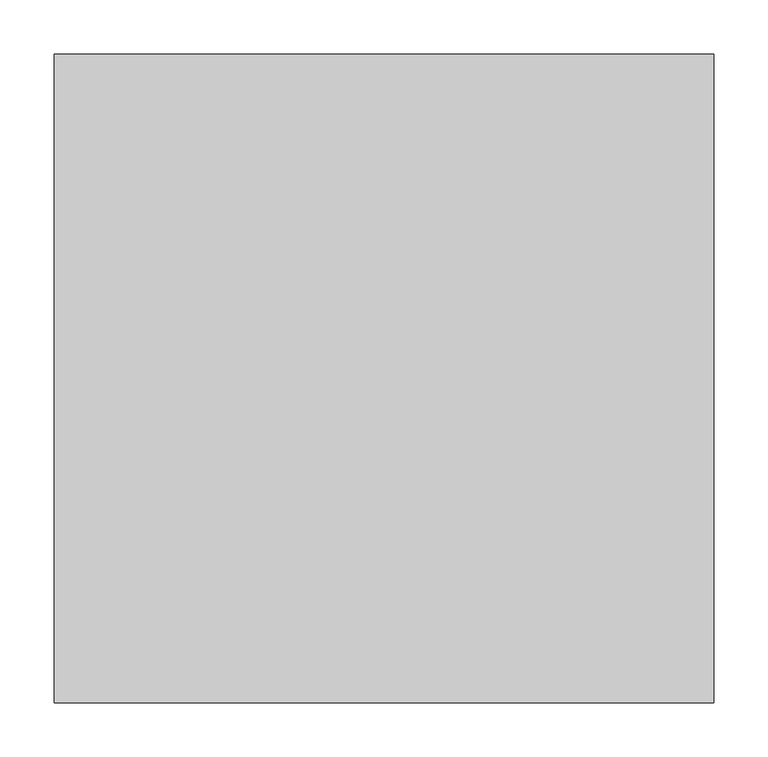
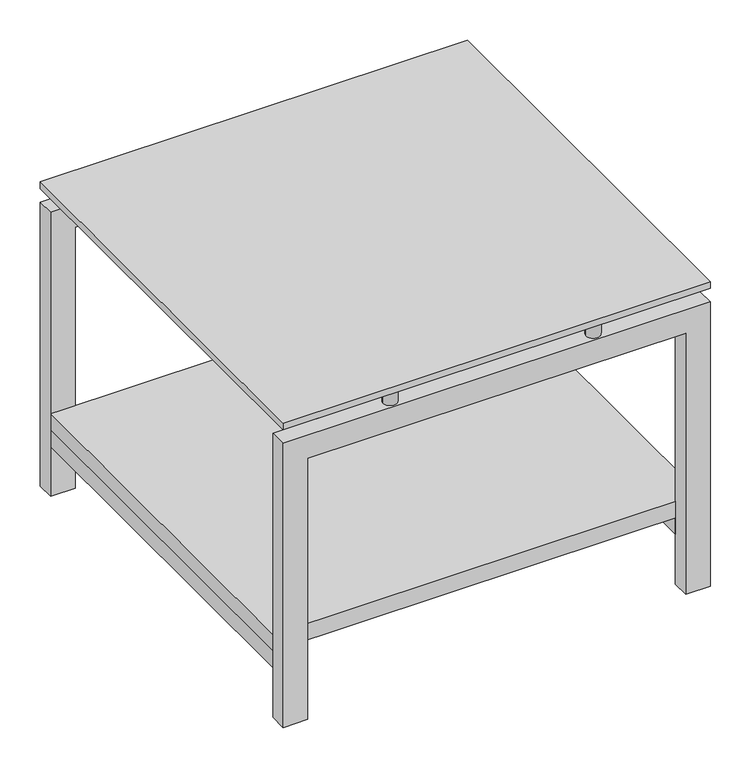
"""IFC4 building model written with IfcOpenShell, lengths in millimetres: furniture geometry, Mobiliário_MobiliáriodeEscritório_LinhaPERFECTA_Mesa de Centro - ZMCV 0606_Marelli : Mobiliário_MobiliáriodeEscritório_LinhaPERFECTA_Mesa de Centro - ZMCV 0606_Marelli."""

from ifc_helpers import new_model, si_unit, point, frame, frame_2d, origin, place, context, project, spatial, polyline, circle_curve, trimmed, segment, composite_curve, outline, extrude, source, transform, mapped, element, save


def furniture_a7132519(model_context):
    return source(origin(), model_context, "Body", "SweptSolid", [
        extrude(outline(polyline([(610.0, 0.0), (0.0, 0.0), (0.0, 600.0), (610.0, 600.0), (610.0, 0.0)])), frame((0.0, 0.0, 449.3107024), z_axis=(0.0, 0.0, 1.0), x_axis=(1.0, 0.0, 0.0)), (0.0, 0.0, 1.0), 9.9892976),
        extrude(outline(polyline([(0.0, 35.0000007), (393.6999879, 35.0000007), (393.6999879, 575.0000044), (0.0, 575.0000044), (0.0, 610.0), (428.7178023, 610.0), (428.7178023, 0.0), (0.0, 0.0), (0.0, 35.0000007)])), frame((0.0, 0.0, 0.0), z_axis=(0.0, 1.0, 0.0), x_axis=(0.0, 0.0, 1.0)), (0.0, 0.0, 1.0), 25.0),
        extrude(outline(polyline([(0.0, 35.0000007), (393.6999879, 35.0000007), (393.6999879, 575.0000044), (0.0, 575.0000044), (0.0, 610.0), (428.7178023, 610.0), (428.7178023, 0.0), (0.0, 0.0), (0.0, 35.0000007)])), frame((0.0, 575.0, 0.0), z_axis=(0.0, 1.0, 0.0), x_axis=(0.0, 0.0, 1.0)), (0.0, 0.0, 1.0), 25.0),
        extrude(outline(polyline([(610.0, 575.0), (610.0, 25.0), (575.0000044, 25.0), (575.0000044, 575.0), (610.0, 575.0)])), frame((0.0, 0.0, 75.0), z_axis=(0.0, 0.0, 1.0), x_axis=(1.0, 0.0, 0.0)), (0.0, 0.0, 1.0), 25.0),
        extrude(outline(polyline([(34.9999956, 575.0), (34.9999956, 25.0), (0.0, 25.0), (0.0, 575.0), (34.9999956, 575.0)])), frame((0.0, 0.0, 75.0), z_axis=(0.0, 0.0, 1.0), x_axis=(1.0, 0.0, 0.0)), (0.0, 0.0, 1.0), 25.0),
        extrude(outline(polyline([(610.0, 575.0), (610.0, 25.0), (0.0, 25.0), (0.0, 575.0), (610.0, 575.0)])), frame((0.0, 0.0, 100.0), z_axis=(0.0, 0.0, 1.0), x_axis=(1.0, 0.0, 0.0)), (0.0, 0.0, 1.0), 25.0),
        extrude(outline(composite_curve([segment(trimmed(circle_curve(frame_2d((450.0001999, 587.5002)), 10.0), [point((440.0001999, 587.5002))], [point((460.0001999, 587.5002))], False, "CARTESIAN"), True, "CONTINUOUS"), segment(trimmed(circle_curve(frame_2d((450.0001999, 587.5002)), 10.0), [point((460.0001999, 587.5002))], [point((440.0001999, 587.5002))], False, "CARTESIAN"), True, "CONTINUOUS")], self_intersect=False)), frame((0.0, 0.0, 428.7178023), z_axis=(0.0, 0.0, 1.0), x_axis=(1.0, 0.0, 0.0)), (0.0, 0.0, 1.0), 20.5929),
        extrude(outline(composite_curve([segment(trimmed(circle_curve(frame_2d((160.0000004, 587.5002005)), 10.0000005), [point((149.9999999, 587.5002005))], [point((170.0000009, 587.5002005))], False, "CARTESIAN"), True, "CONTINUOUS"), segment(trimmed(circle_curve(frame_2d((160.0000004, 587.5002005)), 10.0000005), [point((170.0000009, 587.5002005))], [point((149.9999999, 587.5002005))], False, "CARTESIAN"), True, "CONTINUOUS")], self_intersect=False)), frame((0.0, 0.0, 428.7178023), z_axis=(0.0, 0.0, 1.0), x_axis=(1.0, 0.0, 0.0)), (0.0, 0.0, 1.0), 20.5929),
        extrude(outline(composite_curve([segment(trimmed(circle_curve(frame_2d((159.9999999, 12.4999)), 10.0), [point((149.9999999, 12.4999))], [point((169.9999999, 12.4999))], False, "CARTESIAN"), True, "CONTINUOUS"), segment(trimmed(circle_curve(frame_2d((159.9999999, 12.4999)), 10.0), [point((169.9999999, 12.4999))], [point((149.9999999, 12.4999))], False, "CARTESIAN"), True, "CONTINUOUS")], self_intersect=False)), frame((0.0, 0.0, 428.7178023), z_axis=(0.0, 0.0, 1.0), x_axis=(1.0, 0.0, 0.0)), (0.0, 0.0, 1.0), 20.5929),
        extrude(outline(composite_curve([segment(trimmed(circle_curve(frame_2d((450.0002004, 12.4998999)), 9.9999999), [point((440.0002005, 12.4998999))], [point((460.0002003, 12.4998999))], False, "CARTESIAN"), True, "CONTINUOUS"), segment(trimmed(circle_curve(frame_2d((450.0002004, 12.4998999)), 9.9999999), [point((460.0002003, 12.4998999))], [point((440.0002005, 12.4998999))], False, "CARTESIAN"), True, "CONTINUOUS")], self_intersect=False)), frame((0.0, 0.0, 428.7178023), z_axis=(0.0, 0.0, 1.0), x_axis=(1.0, 0.0, 0.0)), (0.0, 0.0, 1.0), 20.5929),
    ])


if __name__ == "__main__":
    model = new_model("IFC4")
    model_context = context("Model", 3, world=origin())
    ifc_project = project(units=[si_unit("LENGTHUNIT", "METRE", prefix="MILLI")], contexts=[model_context])
    site = spatial("IfcSite", under=ifc_project)
    building = spatial("IfcBuilding", under=site)
    placement = place(None, origin())
    furniture_shape = furniture_a7132519(model_context)
    element("IfcFurniture", 1, ObjectType="Mobiliário_MobiliáriodeEscritório_LinhaPERFECTA_Mesa de Centro - ZMCV 0606_Marelli : Mobiliário_MobiliáriodeEscritório_LinhaPERFECTA_Mesa de Centro - ZMCV 0606_Marelli", at=placement, inside=building, context=model_context, shape_type="MappedRepresentation", body=[
        mapped(furniture_shape, transform((0.0, 0.0, 0.0), x_axis=(1.0, 0.0, 0.0), y_axis=(0.0, 1.0, 0.0), z_axis=(0.0, 0.0, 1.0))),
    ])
    save(model, "model.ifc")
